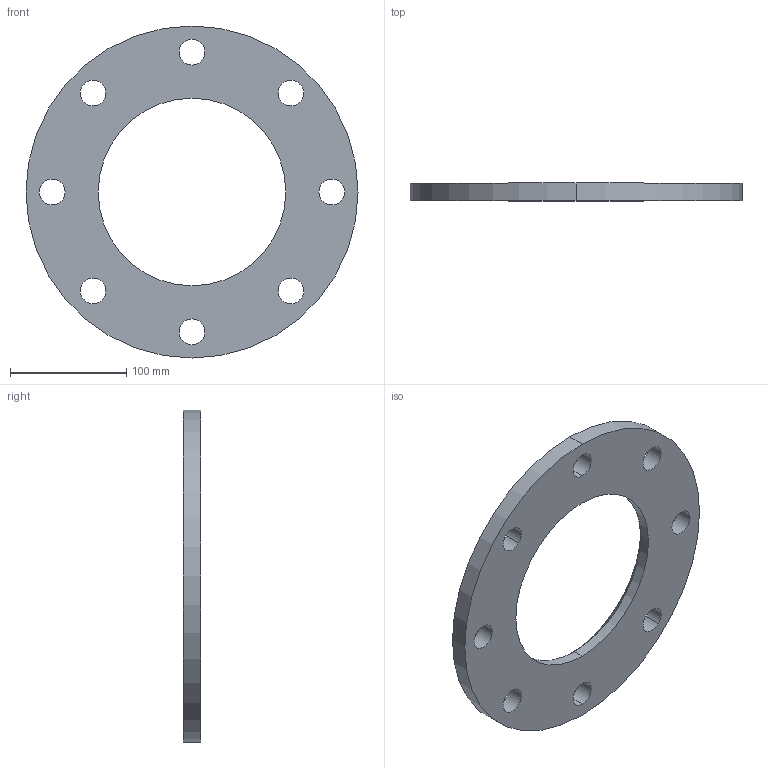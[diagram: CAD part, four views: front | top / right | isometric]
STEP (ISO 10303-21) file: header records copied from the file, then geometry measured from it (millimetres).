
FILE_DESCRIPTION (( 'STEP AP203' ), '1' );
FILE_NAME ('3D_R185_PN10_DN154_176641155_176642155.STEP', '2024-07-10T07:13:52', ( '' ), ( '' ), 'SwSTEP 2.0', 'SolidWorks 2024', '' );
FILE_SCHEMA (( 'CONFIG_CONTROL_DESIGN' ));
Length unit declared in the file: millimetre
Products named in the file (1): 3D_R185_PN10_DN154_176641155_176642155
Bounding box: 285 x 15 x 285 mm (x, y, z)
Volume: 598094.6 mm3; surface area: 108510 mm2
Topology: 1 solids, 1 shells, 24 faces, 64 edges, 42 vertices
Faces by surface type: cylinder 20, cone 2, plane 2
Entity records: 887 total; most frequent: DIRECTION 156, CARTESIAN_POINT 131, ORIENTED_EDGE 128, AXIS2_PLACEMENT_3D 67, EDGE_CURVE 64, EDGE_LOOP 42, CIRCLE 42, VERTEX_POINT 42
